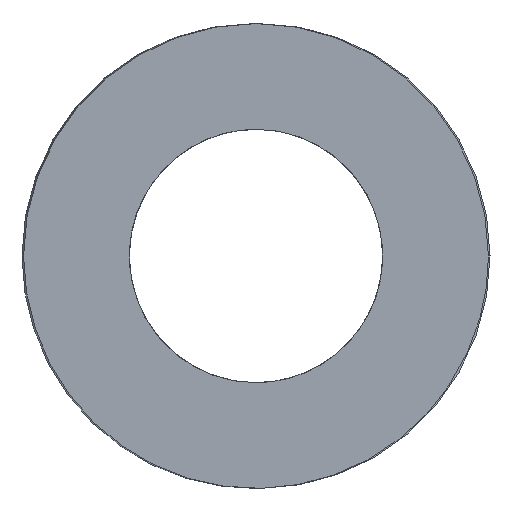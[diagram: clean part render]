
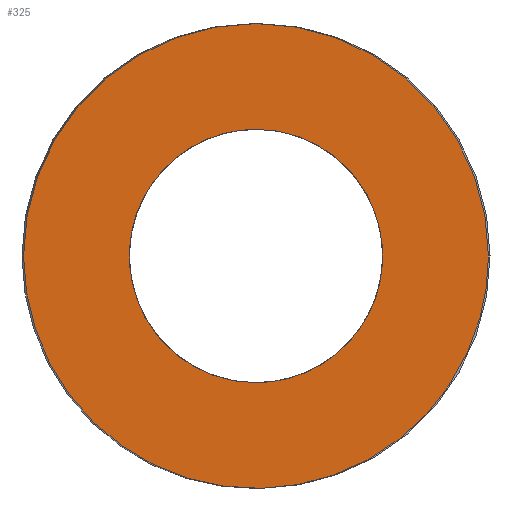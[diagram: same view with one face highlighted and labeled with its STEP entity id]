
A CAD part, left-side view. The second image highlights one B-rep face of the part: STEP entity #325.
In plain terms, the highlighted planar face has unit normal (-1, 0, 0).
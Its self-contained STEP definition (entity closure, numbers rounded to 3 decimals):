
#63=CARTESIAN_POINT('Vertex',(0.,24.4,0.)) ;
#89=CARTESIAN_POINT('Vertex',(0.,-24.4,0.)) ;
#93=CARTESIAN_POINT('Control Point',(0.,24.4,0.)) ;
#94=CARTESIAN_POINT('Control Point',(0.,24.4,-3.833)) ;
#95=CARTESIAN_POINT('Control Point',(0.,23.647,-7.665)) ;
#96=CARTESIAN_POINT('Control Point',(0.,22.142,-11.301)) ;
#97=CARTESIAN_POINT('Control Point',(0.,17.786,-17.786)) ;
#98=CARTESIAN_POINT('Control Point',(0.,11.301,-22.142)) ;
#99=CARTESIAN_POINT('Control Point',(0.,7.665,-23.647)) ;
#100=CARTESIAN_POINT('Control Point',(0.,0.,-25.153)) ;
#101=CARTESIAN_POINT('Control Point',(0.,-7.665,-23.647)) ;
#102=CARTESIAN_POINT('Control Point',(0.,-11.301,-22.142)) ;
#103=CARTESIAN_POINT('Control Point',(0.,-17.786,-17.786)) ;
#104=CARTESIAN_POINT('Control Point',(0.,-22.142,-11.301)) ;
#105=CARTESIAN_POINT('Control Point',(0.,-23.647,-7.665)) ;
#106=CARTESIAN_POINT('Control Point',(0.,-24.4,-3.833)) ;
#107=CARTESIAN_POINT('Control Point',(0.,-24.4,0.)) ;
#121=CARTESIAN_POINT('Axis2P3D Location',(0.,0.,0.)) ;
#256=CARTESIAN_POINT('Axis2P3D Location',(0.,12.2,0.)) ;
#266=CARTESIAN_POINT('Control Point',(0.,0.,-13.3)) ;
#267=CARTESIAN_POINT('Control Point',(0.,1.251,-13.3)) ;
#268=CARTESIAN_POINT('Control Point',(0.,2.501,-13.153)) ;
#269=CARTESIAN_POINT('Control Point',(0.,3.729,-12.859)) ;
#270=CARTESIAN_POINT('Control Point',(0.,6.092,-11.988)) ;
#271=CARTESIAN_POINT('Control Point',(0.,8.189,-10.593)) ;
#272=CARTESIAN_POINT('Control Point',(0.,9.15,-9.774)) ;
#273=CARTESIAN_POINT('Control Point',(0.,10.862,-7.927)) ;
#274=CARTESIAN_POINT('Control Point',(0.,12.099,-5.734)) ;
#275=CARTESIAN_POINT('Control Point',(0.,12.585,-4.569)) ;
#276=CARTESIAN_POINT('Control Point',(0.,13.275,-2.146)) ;
#277=CARTESIAN_POINT('Control Point',(0.,13.384,0.37)) ;
#278=CARTESIAN_POINT('Control Point',(0.,13.289,1.628)) ;
#279=CARTESIAN_POINT('Control Point',(0.,12.807,4.1)) ;
#280=CARTESIAN_POINT('Control Point',(0.,11.764,6.393)) ;
#281=CARTESIAN_POINT('Control Point',(0.,11.11,7.472)) ;
#282=CARTESIAN_POINT('Control Point',(0.,9.56,9.457)) ;
#283=CARTESIAN_POINT('Control Point',(0.,7.591,11.029)) ;
#284=CARTESIAN_POINT('Control Point',(0.,6.519,11.694)) ;
#285=CARTESIAN_POINT('Control Point',(0.,4.601,12.592)) ;
#286=CARTESIAN_POINT('Control Point',(0.,2.551,13.095)) ;
#287=CARTESIAN_POINT('Control Point',(0.,1.706,13.232)) ;
#288=CARTESIAN_POINT('Control Point',(0.,0.853,13.3)) ;
#289=CARTESIAN_POINT('Control Point',(0.,0.,13.3)) ;
#290=CARTESIAN_POINT('Vertex',(0.,0.,-13.3)) ;
#292=CARTESIAN_POINT('Vertex',(0.,0.,13.3)) ;
#296=CARTESIAN_POINT('Control Point',(0.,0.,13.3)) ;
#297=CARTESIAN_POINT('Control Point',(0.,-1.251,13.3)) ;
#298=CARTESIAN_POINT('Control Point',(0.,-2.501,13.153)) ;
#299=CARTESIAN_POINT('Control Point',(0.,-3.729,12.859)) ;
#300=CARTESIAN_POINT('Control Point',(0.,-6.092,11.988)) ;
#301=CARTESIAN_POINT('Control Point',(0.,-8.189,10.593)) ;
#302=CARTESIAN_POINT('Control Point',(0.,-9.15,9.774)) ;
#303=CARTESIAN_POINT('Control Point',(0.,-10.862,7.927)) ;
#304=CARTESIAN_POINT('Control Point',(0.,-12.099,5.734)) ;
#305=CARTESIAN_POINT('Control Point',(0.,-12.585,4.569)) ;
#306=CARTESIAN_POINT('Control Point',(0.,-13.275,2.146)) ;
#307=CARTESIAN_POINT('Control Point',(0.,-13.384,-0.37)) ;
#308=CARTESIAN_POINT('Control Point',(0.,-13.289,-1.628)) ;
#309=CARTESIAN_POINT('Control Point',(0.,-12.807,-4.1)) ;
#310=CARTESIAN_POINT('Control Point',(0.,-11.764,-6.393)) ;
#311=CARTESIAN_POINT('Control Point',(0.,-11.11,-7.472)) ;
#312=CARTESIAN_POINT('Control Point',(0.,-9.56,-9.457)) ;
#313=CARTESIAN_POINT('Control Point',(0.,-7.591,-11.029)) ;
#314=CARTESIAN_POINT('Control Point',(0.,-6.519,-11.694)) ;
#315=CARTESIAN_POINT('Control Point',(0.,-4.601,-12.592)) ;
#316=CARTESIAN_POINT('Control Point',(0.,-2.551,-13.095)) ;
#317=CARTESIAN_POINT('Control Point',(0.,-1.706,-13.232)) ;
#318=CARTESIAN_POINT('Control Point',(0.,-0.853,-13.3)) ;
#319=CARTESIAN_POINT('Control Point',(0.,0.,-13.3)) ;
#122=DIRECTION('Axis2P3D Direction',(1.,-0.,0.)) ;
#257=DIRECTION('Axis2P3D Direction',(-1.,0.,0.)) ;
#258=DIRECTION('Axis2P3D XDirection',(0.,1.,0.)) ;
#123=AXIS2_PLACEMENT_3D('Circle Axis2P3D',#121,#122,$) ;
#259=AXIS2_PLACEMENT_3D('Plane Axis2P3D',#256,#257,#258) ;
#262=ORIENTED_EDGE('',*,*,#108,.T.) ;
#263=ORIENTED_EDGE('',*,*,#125,.T.) ;
#322=ORIENTED_EDGE('',*,*,#294,.T.) ;
#323=ORIENTED_EDGE('',*,*,#320,.T.) ;
#324=FACE_BOUND('',#321,.T.) ;
#325=ADVANCED_FACE('392-B50-139',(#264,#324),#260,.T.) ;
#92=B_SPLINE_CURVE_WITH_KNOTS('',5,(#93,#94,#95,#96,#97,#98,#99,#100,#101,#102,#103,#104,#105,#106,#107),.UNSPECIFIED.,.F.,.U.,(6,3,3,3,6),(-38.327,-19.164,0.,19.164,38.327),.UNSPECIFIED.) ;
#265=B_SPLINE_CURVE_WITH_KNOTS('',5,(#266,#267,#268,#269,#270,#271,#272,#273,#274,#275,#276,#277,#278,#279,#280,#281,#282,#283,#284,#285,#286,#287,#288,#289),.UNSPECIFIED.,.F.,.U.,(6,3,3,3,3,3,3,6),(0.,8.843,17.686,26.53,35.373,44.216,53.059,59.09),.UNSPECIFIED.) ;
#295=B_SPLINE_CURVE_WITH_KNOTS('',5,(#296,#297,#298,#299,#300,#301,#302,#303,#304,#305,#306,#307,#308,#309,#310,#311,#312,#313,#314,#315,#316,#317,#318,#319),.UNSPECIFIED.,.F.,.U.,(6,3,3,3,3,3,3,6),(0.,8.843,17.686,26.53,35.373,44.216,53.059,59.09),.UNSPECIFIED.) ;
#124=CIRCLE('generated circle',#123,24.4) ;
#108=EDGE_CURVE('',#64,#90,#92,.T.) ;
#125=EDGE_CURVE('',#90,#64,#124,.F.) ;
#294=EDGE_CURVE('',#291,#293,#265,.T.) ;
#320=EDGE_CURVE('',#293,#291,#295,.T.) ;
#261=EDGE_LOOP('',(#262,#263)) ;
#321=EDGE_LOOP('',(#322,#323)) ;
#264=FACE_OUTER_BOUND('',#261,.T.) ;
#260=PLANE('Plane',#259) ;
#64=VERTEX_POINT('',#63) ;
#90=VERTEX_POINT('',#89) ;
#291=VERTEX_POINT('',#290) ;
#293=VERTEX_POINT('',#292) ;
